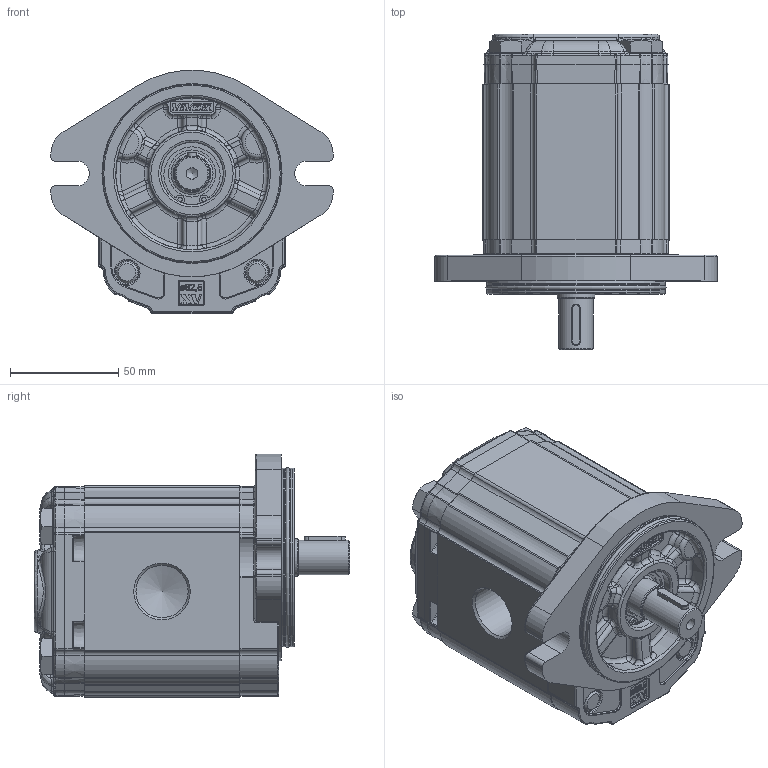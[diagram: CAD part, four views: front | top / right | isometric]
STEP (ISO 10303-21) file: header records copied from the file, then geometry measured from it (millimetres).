
FILE_DESCRIPTION(/* description */ ('Unknown'),/* implementation_level */ '2;1');
FILE_NAME(/* name */ 'X2P5352BCBA',/* time_stamp */ '2021-07-16T13:49:03+02:00',/* author */ ('Unknown'),/* organization */ ('Unknown'),/* preprocessor_version */ 'ST-DEVELOPER v16.7',/* originating_system */ 'Solid Edge',/* authorisation */ 'Unknown');
FILE_SCHEMA (('TECHNICAL_DATA_PACKAGING','AUTOMOTIVE_DESIGN {1 0 10303 214 3 1 1}'));
Products named in the file (5): X2P5352BCBA; X2P52; 2B; X2CBH72; XP219-A
Assembly tree (4 placements, depth 2):
  X2P5352BCBA
    X2P52
    2B
    X2CBH72
    XP219-A
Bounding box: 130.38 x 145.7 x 112.3 mm (x, y, z)
Volume: 864361.9 mm3; surface area: 111132.1 mm2
Topology: 4 solids, 6 shells, 2083 faces, 5105 edges, 3093 vertices
Faces by surface type: cylinder 619, plane 573, bspline 537, torus 243, cone 73, sphere 38
Full cylindrical faces by diameter (mm): 2 x2, 5.367 x1, 10 x4, 10.5 x4, 11 x2, 15.875 x1, 16 x4, 17.42 x1, 17.48 x2, 18.724 x1, 19 x1, 20.595 x1, 21.741 x1, 24.117 x1, 25.834 x1, 28.56 x1, 28.57 x1, 28.8 x1, 30.4 x1, 79.6 x2, 82.5 x2
Entity records: 88508 total; most frequent: CARTESIAN_POINT 29273, ORIENTED_EDGE 9858, DIRECTION 8227, EDGE_CURVE 4929, AXIS2_PLACEMENT_3D 3098, VERTEX_POINT 3042, FACE_BOUND 2271, EDGE_LOOP 2267
